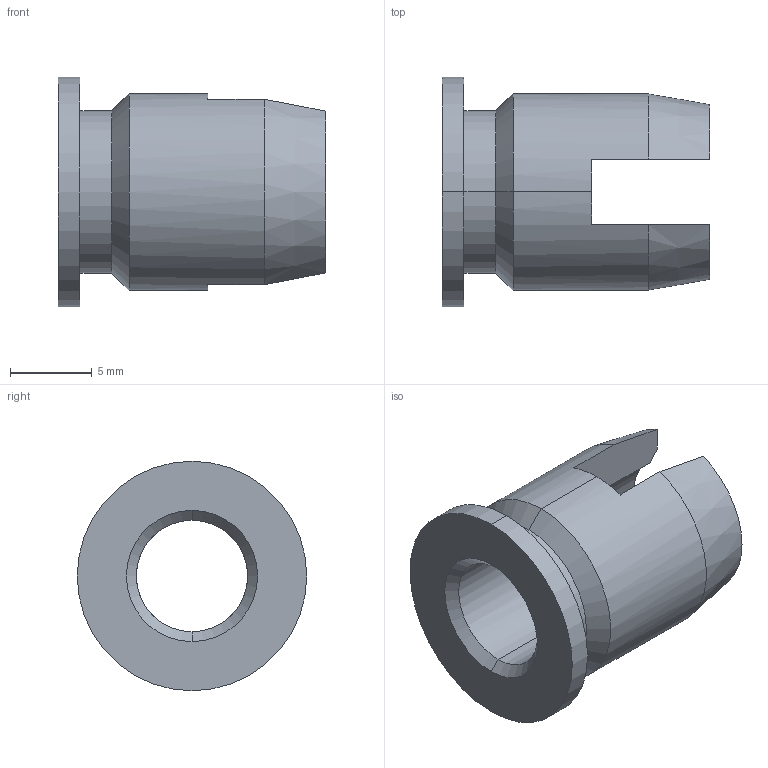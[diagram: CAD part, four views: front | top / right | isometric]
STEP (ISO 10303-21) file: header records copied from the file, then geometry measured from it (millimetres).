
FILE_DESCRIPTION (( 'STEP AP203' ), '1' );
FILE_NAME ('FSUK-SCRH-M08.STEP', '2021-06-16T12:13:33', ( '' ), ( '' ), 'SwSTEP 2.0', 'SolidWorks 2021', '' );
FILE_SCHEMA (( 'CONFIG_CONTROL_DESIGN' ));
Length unit declared in the file: millimetre
Products named in the file (1): FSUK-SCRH-M08
Bounding box: 16.32 x 14 x 14 mm (x, y, z)
Volume: 1019.5 mm3; surface area: 1163.4 mm2
Topology: 1 solids, 1 shells, 26 faces, 66 edges, 42 vertices
Faces by surface type: plane 10, cone 8, cylinder 8
Entity records: 881 total; most frequent: CARTESIAN_POINT 159, DIRECTION 142, ORIENTED_EDGE 132, EDGE_CURVE 66, AXIS2_PLACEMENT_3D 57, VERTEX_POINT 42, CIRCLE 30, LINE 28
